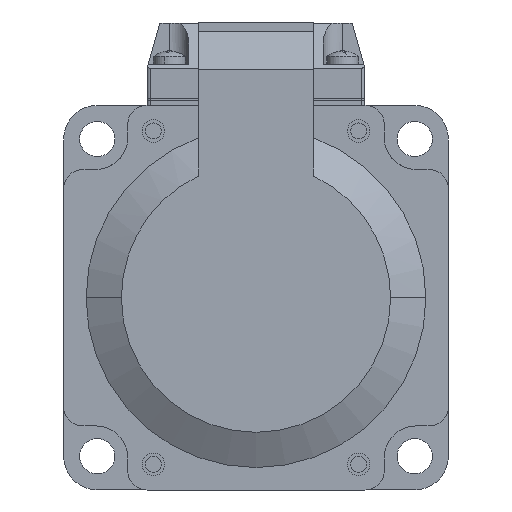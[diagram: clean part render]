
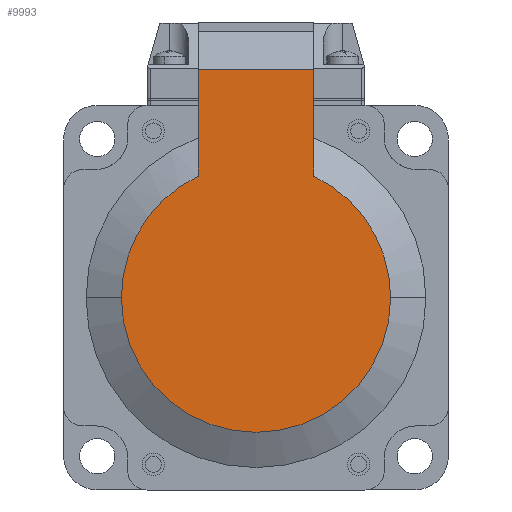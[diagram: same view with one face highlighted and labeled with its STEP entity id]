
A CAD part, left-side view. The second image highlights one B-rep face of the part: STEP entity #9993.
In plain terms, the highlighted planar face has unit normal (-1, 0, 0).
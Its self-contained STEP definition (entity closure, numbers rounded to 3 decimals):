
#271 = DIRECTION ( 'NONE',  ( 0., 0., 1. ) ) ;
#915 = CARTESIAN_POINT ( 'NONE',  ( -27., -9., 18.974 ) ) ;
#941 = DIRECTION ( 'NONE',  ( 0., 0., 1. ) ) ;
#1066 = VERTEX_POINT ( 'NONE', #11816 ) ;
#1581 = CARTESIAN_POINT ( 'NONE',  ( -27., -9., 35.583 ) ) ;
#1655 = CARTESIAN_POINT ( 'NONE',  ( -27., 21., 0. ) ) ;
#1778 = AXIS2_PLACEMENT_3D ( 'NONE', #12210, #6970, #5601 ) ;
#1790 = VERTEX_POINT ( 'NONE', #2865 ) ;
#2048 = ORIENTED_EDGE ( 'NONE', *, *, #5388, .T. ) ;
#2709 = DIRECTION ( 'NONE',  ( -1., 0., 0. ) ) ;
#2819 = FACE_OUTER_BOUND ( 'NONE', #4059, .T. ) ;
#2865 = CARTESIAN_POINT ( 'NONE',  ( -27., 9., 18.974 ) ) ;
#3009 = DIRECTION ( 'NONE',  ( 0., 1., 0. ) ) ;
#3161 = EDGE_CURVE ( 'NONE', #8561, #3447, #6915, .T. ) ;
#3447 = VERTEX_POINT ( 'NONE', #1581 ) ;
#3460 = AXIS2_PLACEMENT_3D ( 'NONE', #15973, #2709, #14750 ) ;
#4059 = EDGE_LOOP ( 'NONE', ( #7282, #12667, #8606, #2048, #15213, #12339 ) ) ;
#4159 = CIRCLE ( 'NONE', #15116, 21. ) ;
#4168 = VERTEX_POINT ( 'NONE', #915 ) ;
#4335 = EDGE_CURVE ( 'NONE', #1790, #1066, #7106, .T. ) ;
#4363 = VECTOR ( 'NONE', #14468, 1000. ) ;
#4846 = CARTESIAN_POINT ( 'NONE',  ( -27., -9., 35.583 ) ) ;
#4894 = EDGE_CURVE ( 'NONE', #1790, #8561, #5808, .T. ) ;
#4924 = CARTESIAN_POINT ( 'NONE',  ( -27., 9., 35.583 ) ) ;
#5161 = CARTESIAN_POINT ( 'NONE',  ( -27., 9., 35.583 ) ) ;
#5388 = EDGE_CURVE ( 'NONE', #6292, #4168, #11429, .T. ) ;
#5585 = DIRECTION ( 'NONE',  ( 0., 1., 0. ) ) ;
#5601 = DIRECTION ( 'NONE',  ( 0., 1., 0. ) ) ;
#5808 = LINE ( 'NONE', #8219, #12914 ) ;
#6292 = VERTEX_POINT ( 'NONE', #11430 ) ;
#6915 = LINE ( 'NONE', #5161, #4363 ) ;
#6970 = DIRECTION ( 'NONE',  ( -1., 0., 0. ) ) ;
#7106 = CIRCLE ( 'NONE', #1778, 21. ) ;
#7282 = ORIENTED_EDGE ( 'NONE', *, *, #4894, .F. ) ;
#8219 = CARTESIAN_POINT ( 'NONE',  ( -27., 9., 35.583 ) ) ;
#8561 = VERTEX_POINT ( 'NONE', #4924 ) ;
#8606 = ORIENTED_EDGE ( 'NONE', *, *, #17021, .T. ) ;
#9530 = VECTOR ( 'NONE', #941, 1000. ) ;
#9993 = ADVANCED_FACE ( 'NONE', ( #2819 ), #16447, .T. ) ;
#10223 = EDGE_CURVE ( 'NONE', #4168, #3447, #13708, .T. ) ;
#10857 = CARTESIAN_POINT ( 'NONE',  ( -27., 0., 0. ) ) ;
#11027 = DIRECTION ( 'NONE',  ( -1., 0., 0. ) ) ;
#11429 = CIRCLE ( 'NONE', #3460, 21. ) ;
#11430 = CARTESIAN_POINT ( 'NONE',  ( -27., -21., 0. ) ) ;
#11816 = CARTESIAN_POINT ( 'NONE',  ( -27., 21., 0. ) ) ;
#12210 = CARTESIAN_POINT ( 'NONE',  ( -27., 0., 0. ) ) ;
#12339 = ORIENTED_EDGE ( 'NONE', *, *, #3161, .F. ) ;
#12667 = ORIENTED_EDGE ( 'NONE', *, *, #4335, .T. ) ;
#12914 = VECTOR ( 'NONE', #271, 1000. ) ;
#13708 = LINE ( 'NONE', #4846, #9530 ) ;
#14468 = DIRECTION ( 'NONE',  ( 0., -1., 0. ) ) ;
#14577 = AXIS2_PLACEMENT_3D ( 'NONE', #1655, #11027, #3009 ) ;
#14750 = DIRECTION ( 'NONE',  ( 0., 1., 0. ) ) ;
#14756 = DIRECTION ( 'NONE',  ( -1., 0., 0. ) ) ;
#15116 = AXIS2_PLACEMENT_3D ( 'NONE', #10857, #14756, #5585 ) ;
#15213 = ORIENTED_EDGE ( 'NONE', *, *, #10223, .T. ) ;
#15973 = CARTESIAN_POINT ( 'NONE',  ( -27., 0., 0. ) ) ;
#16447 = PLANE ( 'NONE',  #14577 ) ;
#17021 = EDGE_CURVE ( 'NONE', #1066, #6292, #4159, .T. ) ;
